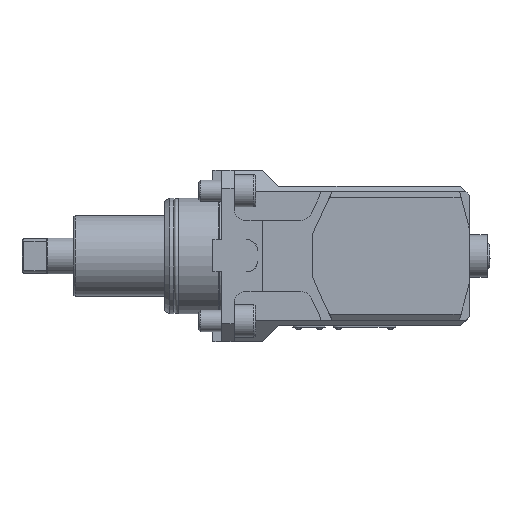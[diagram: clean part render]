
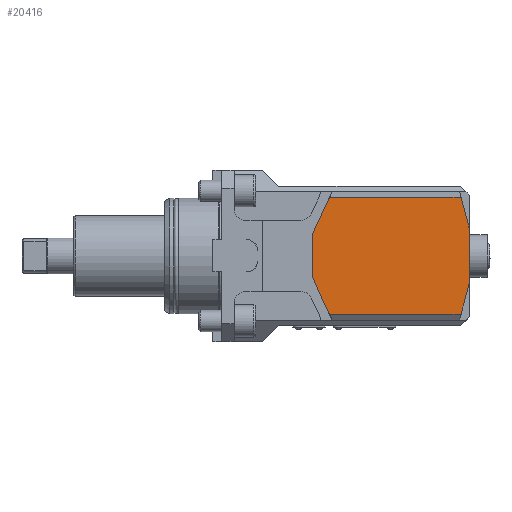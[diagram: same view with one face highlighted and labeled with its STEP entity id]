
A CAD part, top view. The second image highlights one B-rep face of the part: STEP entity #20416.
In plain terms, the highlighted planar face has unit normal (0, 0, 1).
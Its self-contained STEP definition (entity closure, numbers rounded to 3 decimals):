
#8308=VECTOR('',#14176,1.);
#8319=VECTOR('',#14193,1.);
#8321=VECTOR('',#14197,1.);
#8322=VECTOR('',#14200,1.);
#8323=VECTOR('',#14201,1.);
#8324=VECTOR('',#14202,1.);
#8325=VECTOR('',#14203,1.);
#8326=VECTOR('',#14204,1.);
#8775=LINE('',#16080,#8308);
#8786=LINE('',#16102,#8319);
#8788=LINE('',#16105,#8321);
#8789=LINE('',#16108,#8322);
#8790=LINE('',#16110,#8323);
#8791=LINE('',#16112,#8324);
#8792=LINE('',#16114,#8325);
#8793=LINE('',#16115,#8326);
#9212=PLANE('',#19644);
#9691=ORIENTED_EDGE('',*,*,#12049,.F.);
#9692=ORIENTED_EDGE('',*,*,#12063,.F.);
#9693=ORIENTED_EDGE('',*,*,#12064,.F.);
#9694=ORIENTED_EDGE('',*,*,#12065,.F.);
#9695=ORIENTED_EDGE('',*,*,#12066,.F.);
#9696=ORIENTED_EDGE('',*,*,#12067,.F.);
#9697=ORIENTED_EDGE('',*,*,#12060,.F.);
#9698=ORIENTED_EDGE('',*,*,#12062,.F.);
#11437=VERTEX_POINT('',#16077);
#11438=VERTEX_POINT('',#16079);
#11445=VERTEX_POINT('',#16099);
#11446=VERTEX_POINT('',#16101);
#11447=VERTEX_POINT('',#16107);
#11448=VERTEX_POINT('',#16109);
#11449=VERTEX_POINT('',#16111);
#11450=VERTEX_POINT('',#16113);
#12049=EDGE_CURVE('',#11437,#11438,#8775,.T.);
#12060=EDGE_CURVE('',#11445,#11446,#8786,.T.);
#12062=EDGE_CURVE('',#11438,#11445,#8788,.T.);
#12063=EDGE_CURVE('',#11447,#11437,#8789,.T.);
#12064=EDGE_CURVE('',#11448,#11447,#8790,.T.);
#12065=EDGE_CURVE('',#11449,#11448,#8791,.T.);
#12066=EDGE_CURVE('',#11450,#11449,#8792,.T.);
#12067=EDGE_CURVE('',#11446,#11450,#8793,.T.);
#12827=EDGE_LOOP('',(#9691,#9692,#9693,#9694,#9695,#9696,#9697,#9698));
#13395=FACE_BOUND('',#12827,.T.);
#14176=DIRECTION('',(0.,-30.,0.));
#14193=DIRECTION('',(-73.778,0.,0.));
#14197=DIRECTION('',(-4.749,-17.724,0.));
#14198=DIRECTION('',(0.,0.,1.));
#14199=DIRECTION('',(0.,-1.,0.));
#14200=DIRECTION('',(4.749,-17.724,0.));
#14201=DIRECTION('',(73.778,0.,0.));
#14202=DIRECTION('',(9.473,20.314,0.));
#14203=DIRECTION('',(0.,24.821,0.));
#14204=DIRECTION('',(-9.473,20.314,0.));
#16077=CARTESIAN_POINT('',(139.,15.,61.));
#16079=CARTESIAN_POINT('',(139.,-15.,61.));
#16080=CARTESIAN_POINT('',(139.,15.,61.));
#16099=CARTESIAN_POINT('',(134.251,-32.724,61.));
#16101=CARTESIAN_POINT('',(60.473,-32.724,61.));
#16102=CARTESIAN_POINT('',(134.251,-32.724,61.));
#16105=CARTESIAN_POINT('',(139.,-15.,61.));
#16106=CARTESIAN_POINT('',(139.,0.,61.));
#16107=CARTESIAN_POINT('',(134.251,32.724,61.));
#16108=CARTESIAN_POINT('',(134.251,32.724,61.));
#16109=CARTESIAN_POINT('',(60.473,32.724,61.));
#16110=CARTESIAN_POINT('',(60.473,32.724,61.));
#16111=CARTESIAN_POINT('',(51.,12.41,61.));
#16112=CARTESIAN_POINT('',(51.,12.41,61.));
#16113=CARTESIAN_POINT('',(51.,-12.41,61.));
#16114=CARTESIAN_POINT('',(51.,-12.41,61.));
#16115=CARTESIAN_POINT('',(60.473,-32.724,61.));
#19644=AXIS2_PLACEMENT_3D('',#16106,#14198,#14199);
#20416=ADVANCED_FACE('',(#13395),#9212,.T.);
